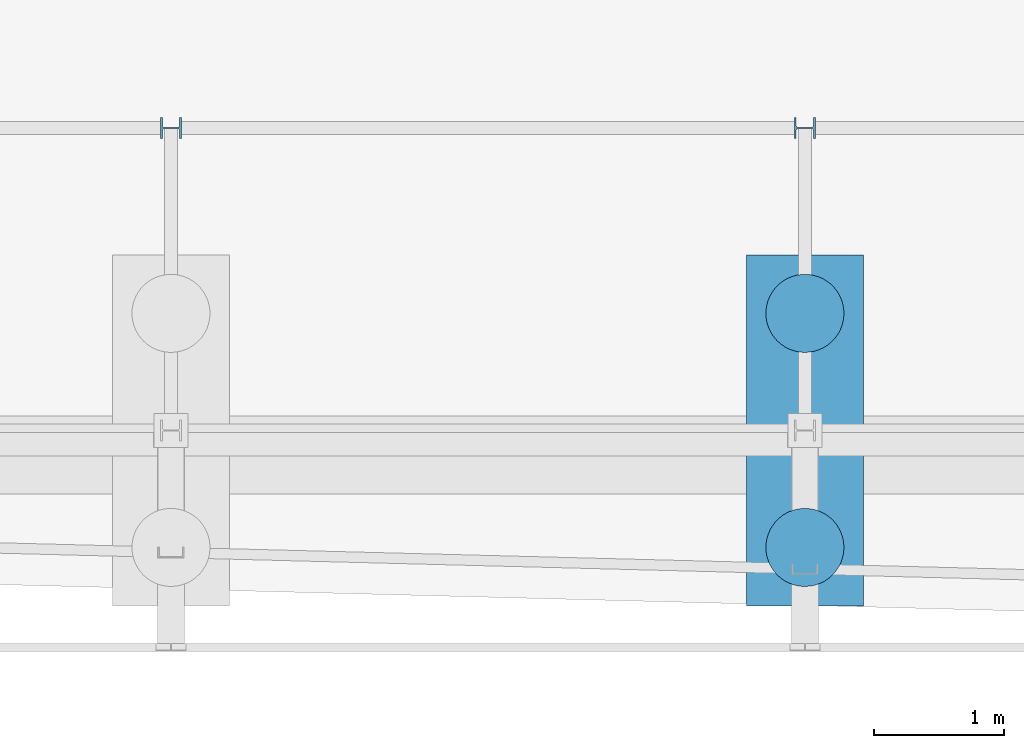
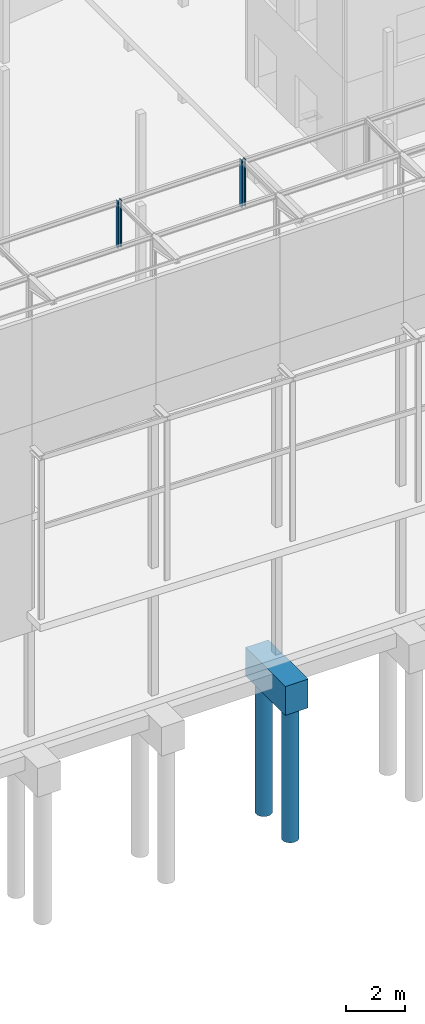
# One storey, part 10 of 82: 5 columns.
"""IFC2X3 building model written with IfcOpenShell, lengths in millimetres."""

from ifc_helpers import new_model, si_unit, frame, frame_2d, origin_with_axes, place, context, subcontext, project, spatial, rectangle, circle, i_section, extrude, material, type_object, element, save


model = new_model("IFC2X3")

# Units and contexts
model_context = context("Model", 3, precision=1e-05, world=origin_with_axes())
body_context = subcontext(model_context, "Body", "Model", "MODEL_VIEW")
ifc_project = project(units=[si_unit("LENGTHUNIT", "METRE", prefix="MILLI"), si_unit("AREAUNIT", "SQUARE_METRE"), si_unit("VOLUMEUNIT", "CUBIC_METRE"), si_unit("MASSUNIT", "GRAM", prefix="KILO"), si_unit("TIMEUNIT", "SECOND"), si_unit("PLANEANGLEUNIT", "RADIAN"), si_unit("SOLIDANGLEUNIT", "STERADIAN"), si_unit("THERMODYNAMICTEMPERATUREUNIT", "DEGREE_CELSIUS"), si_unit("LUMINOUSINTENSITYUNIT", "LUMEN")], contexts=[model_context])

# Site, building, storey
site_placement = place(None, origin_with_axes())
site = spatial("IfcSite", under=ifc_project, at=site_placement, Name="Undefined", CompositionType="ELEMENT")
building_placement = place(site_placement, origin_with_axes())
building = spatial("IfcBuilding", under=site, at=building_placement, Name="Undefined", CompositionType="ELEMENT")
storey_placement = place(building_placement, origin_with_axes())
storey = spatial("IfcBuildingStorey", under=building, at=storey_placement, Name="Undefined", CompositionType="ELEMENT", Elevation=0.0)

# Columns
ifc_material_1 = material(Name="STEEL/S275JR")
column_type_1 = type_object("IfcColumnType", Name="HEB160", PredefinedType="NOTDEFINED")
for number, where, z_axis, x_axis, name in (
    (1, (19500.0000011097, 2324.99999965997, 17160.0), (0.0, 0.0, 1.0), (1.0, 0.0, 0.0), "POTEAU"),
    (2, (14625.0000011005, 2324.99999966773, 17160.0), (0.0, 0.0, 1.0), (1.0, 0.0, 0.0), "POTEAU"),
):
    element("IfcColumn", number, at=place(storey_placement, frame(where, z_axis=z_axis, x_axis=x_axis)), inside=storey, type_object=column_type_1, material=ifc_material_1, Name=name, ObjectType="HEB160", context=body_context, shape_type="SweptSolid", body=[
        extrude(i_section(OverallWidth=160.0, OverallDepth=160.0, WebThickness=8.0, FlangeThickness=13.0, FilletRadius=15.0, at=frame_2d((5.17284206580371e-08, 4.49290382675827e-10), x_axis=(1.0, 0.0))), frame((0.0, 0.0, 1965.0), z_axis=(0.0, -6.50000002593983e-08, -0.999999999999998), x_axis=(-2.77555756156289e-17, -1.0, 0.0)), (0.0, 0.0, 1.0), 1965.0),
    ])
ifc_material_2 = material(Name="CONCRETE/C30/37")
column_type_2 = type_object("IfcColumnType", Name="2700*900", PredefinedType="NOTDEFINED")
column_placement = place(storey_placement, frame((19500.0000000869, -1.36110173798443e-07, -1650.0), z_axis=(0.0, 0.0, 1.0), x_axis=(1.0, 0.0, 0.0)))
element("IfcColumn", 3, at=column_placement, inside=storey, type_object=column_type_2, material=ifc_material_2, Name="SEMELLE", ObjectType="2700*900", context=body_context, shape_type="SweptSolid", body=[
    extrude(rectangle(XDim=900.0, YDim=2700.0, at=frame_2d((5.17284206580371e-08, 4.49290382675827e-10), x_axis=(1.0, 0.0))), frame((0.0, 0.0, 1200.0), z_axis=(0.0, -6.50000002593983e-08, -0.999999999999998), x_axis=(-1.0, 0.0, 0.0)), (0.0, 0.0, 1.0), 1200.0),
])
ifc_material_3 = material(Name="CONCRETE/C25/30")
column_type_3 = type_object("IfcColumnType", Name="D600", PredefinedType="NOTDEFINED")
for number, where, z_axis, x_axis in (
    (4, (19500.0000000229, -900.000000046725, -7175.0), (0.0, 0.0, 1.0), (1.0, 0.0, 0.0)),
    (5, (19500.0000000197, 899.999999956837, -7175.0), (0.0, 0.0, 1.0), (1.0, 0.0, 0.0)),
):
    element("IfcColumn", number, at=place(storey_placement, frame(where, z_axis=z_axis, x_axis=x_axis)), inside=storey, type_object=column_type_3, material=ifc_material_3, Name="PIEU", ObjectType="D600", context=body_context, shape_type="SweptSolid", body=[
        extrude(circle(Radius=300.0, at=frame_2d((5.17284206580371e-08, 4.49290382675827e-10), x_axis=(1.0, 0.0))), frame((0.0, 0.0, 5750.0), z_axis=(0.0, -6.50000002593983e-08, -0.999999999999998), x_axis=(-1.0, 0.0, 0.0)), (0.0, 0.0, 1.0), 5750.0),
    ])

save(model, "model.ifc")
